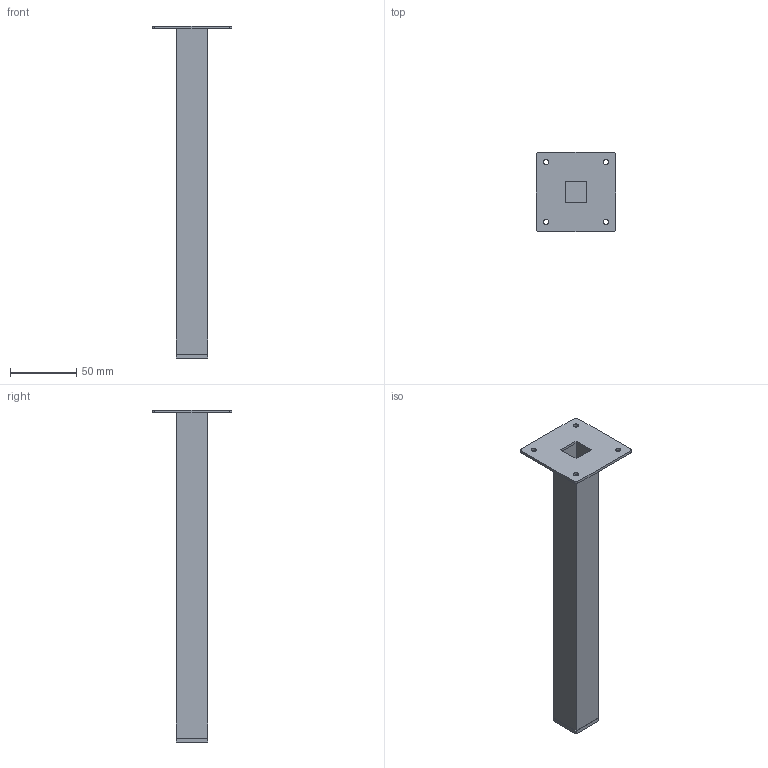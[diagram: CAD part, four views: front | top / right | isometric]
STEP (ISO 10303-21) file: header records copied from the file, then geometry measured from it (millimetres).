
FILE_DESCRIPTION( ( '' ), '1' );
FILE_NAME( 'D:/temp/hettich_stp/hettich/6.5_furniture_legs/table_legs/45809.stp', '2013-02-26T12:27:11', ( '' ), ( '' ), ' ', ' ', ' ' );
FILE_SCHEMA( ( 'automotive_design' ) );
Length unit declared in the file: millimetre
Products named in the file (1): 1
Bounding box: 60 x 60 x 250 mm (x, y, z)
Volume: 30830.4 mm3; surface area: 53798.9 mm2
Topology: 1 solids, 1 shells, 43 faces, 108 edges, 72 vertices
Faces by surface type: plane 31, cylinder 12
Entity records: 2570 total; most frequent: STYLED_ITEM 224, PRESENTATION_STYLE_ASSIGNMENT 224, CARTESIAN_POINT 224, COLOUR_RGB 224, DIRECTION 220, ORIENTED_EDGE 216, EDGE_CURVE 108, CURVE_STYLE 108
